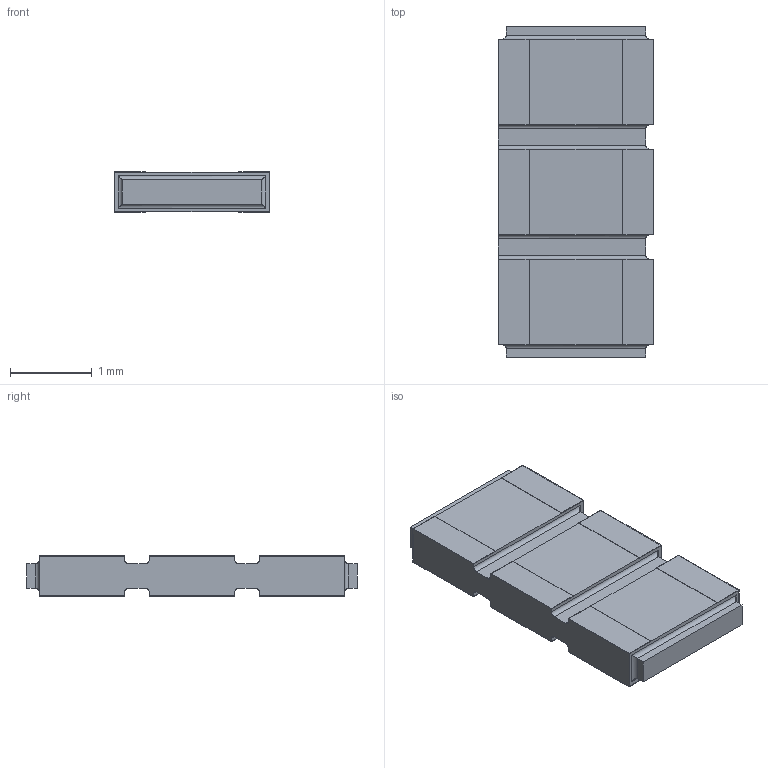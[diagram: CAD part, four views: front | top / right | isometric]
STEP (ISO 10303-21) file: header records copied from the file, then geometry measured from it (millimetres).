
FILE_DESCRIPTION(/* description */ (''),/* implementation_level */ '2;1');
FILE_NAME(/* name */ 'S:\DOCUMENT\AUTOCAD\3D_Modèles\10_3D-pour-VISHAY-COM\PRA\PRA135\PRA135-C2_à_C8\10_IGES\PRA135C3_B-or-N-or-G.stp',/* time_stamp */ '2017-12-18T12:01:10+01:00',/* author */ ('dparmentier'),/* organization */ ('unknown'),/* preprocessor_version */ 'ST-DEVELOPER v17',/* originating_system */ 'Autodesk Inventor 2018',/* authorisation */ '');
FILE_SCHEMA (('AUTOMOTIVE_DESIGN { 1 0 10303 214 3 1 1 }'));
Length unit declared in the file: millimetre
Products named in the file (1): PRA135C3_B-or-N-or-G
Bounding box: 1.91 x 4.05 x 0.5 mm (x, y, z)
Volume: 3.5 mm3; surface area: 38 mm2
Topology: 5 solids, 5 shells, 124 faces, 320 edges, 208 vertices
Faces by surface type: plane 96, cylinder 28
Entity records: 3765 total; most frequent: CARTESIAN_POINT 653, ORIENTED_EDGE 640, DIRECTION 610, EDGE_CURVE 320, LINE 280, VECTOR 280, VERTEX_POINT 208, AXIS2_PLACEMENT_3D 165
